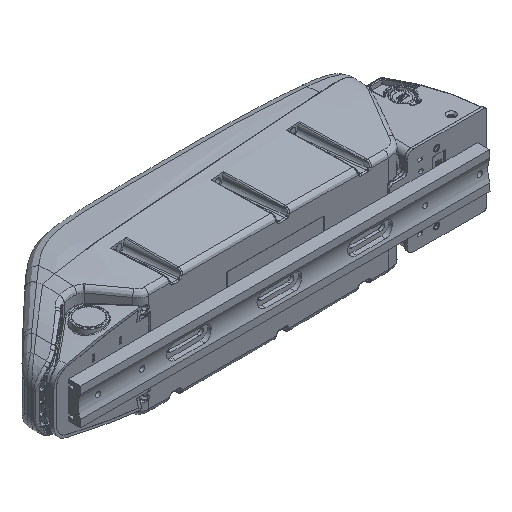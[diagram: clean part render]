
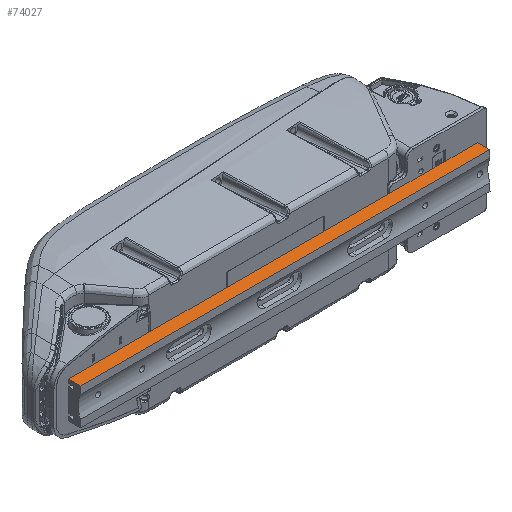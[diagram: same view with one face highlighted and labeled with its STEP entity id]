
A CAD part, isometric view. The second image highlights one B-rep face of the part: STEP entity #74027.
In plain terms, the highlighted planar face has unit normal (0, 0, 1).
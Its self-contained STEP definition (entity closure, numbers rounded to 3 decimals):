
#3856=LINE('',#101635,#8793);
#3869=LINE('',#101679,#8806);
#4284=LINE('',#107168,#9221);
#4291=LINE('',#107179,#9228);
#4363=LINE('',#107674,#9300);
#4392=LINE('',#107732,#9329);
#5172=LINE('',#112738,#10109);
#5173=LINE('',#112739,#10110);
#8793=VECTOR('',#84119,26.362);
#8806=VECTOR('',#84142,35.183);
#9221=VECTOR('',#85401,11.263);
#9228=VECTOR('',#85410,10.);
#9300=VECTOR('',#85532,10.2);
#9329=VECTOR('',#85579,10.);
#10109=VECTOR('',#87527,10.2);
#10110=VECTOR('',#87528,339.198);
#14065=PLANE('',#78957);
#15852=FACE_OUTER_BOUND('',#20349,.T.);
#20349=EDGE_LOOP('',(#53659,#53660,#53661,#53662,#53663,#53664,#53665,#53666));
#30512=VERTEX_POINT('',#101633);
#30513=VERTEX_POINT('',#101634);
#30531=VERTEX_POINT('',#101676);
#30532=VERTEX_POINT('',#101678);
#31077=VERTEX_POINT('',#107177);
#31157=VERTEX_POINT('',#107673);
#31177=VERTEX_POINT('',#107731);
#31927=VERTEX_POINT('',#112737);
#37954=EDGE_CURVE('',#30512,#30513,#3856,.T.);
#37973=EDGE_CURVE('',#30532,#30531,#3869,.T.);
#38742=EDGE_CURVE('',#30532,#30513,#4284,.T.);
#38749=EDGE_CURVE('',#31077,#30531,#4291,.T.);
#38847=EDGE_CURVE('',#30512,#31157,#4363,.T.);
#38878=EDGE_CURVE('',#31177,#31077,#4392,.T.);
#40035=EDGE_CURVE('',#31927,#31177,#5172,.T.);
#40036=EDGE_CURVE('',#31157,#31927,#5173,.T.);
#53659=ORIENTED_EDGE('',*,*,#37954,.T.);
#53660=ORIENTED_EDGE('',*,*,#38742,.F.);
#53661=ORIENTED_EDGE('',*,*,#37973,.T.);
#53662=ORIENTED_EDGE('',*,*,#38749,.F.);
#53663=ORIENTED_EDGE('',*,*,#38878,.F.);
#53664=ORIENTED_EDGE('',*,*,#40035,.F.);
#53665=ORIENTED_EDGE('',*,*,#40036,.F.);
#53666=ORIENTED_EDGE('',*,*,#38847,.F.);
#74027=ADVANCED_FACE('',(#15852),#14065,.F.);
#78957=AXIS2_PLACEMENT_3D('',#112736,#87525,#87526);
#84119=DIRECTION('',(-1.,0.,0.));
#84142=DIRECTION('',(-1.,0.,0.));
#85401=DIRECTION('',(1.,0.,0.));
#85410=DIRECTION('',(1.,0.,0.));
#85532=DIRECTION('',(0.,-1.,0.));
#85579=DIRECTION('',(1.,0.,0.));
#87525=DIRECTION('center_axis',(0.,0.,-1.));
#87526=DIRECTION('ref_axis',(-1.,0.,0.));
#87527=DIRECTION('',(0.,1.,0.));
#87528=DIRECTION('',(-1.,0.,0.));
#101633=CARTESIAN_POINT('',(29.879,-6.,15.052));
#101634=CARTESIAN_POINT('',(3.516,-6.,15.052));
#101635=CARTESIAN_POINT('',(29.879,-6.,15.052));
#101676=CARTESIAN_POINT('',(-42.931,-6.,15.052));
#101678=CARTESIAN_POINT('',(-7.747,-6.,15.052));
#101679=CARTESIAN_POINT('',(-7.747,-6.,15.052));
#107168=CARTESIAN_POINT('',(-7.747,-6.,15.052));
#107177=CARTESIAN_POINT('',(-242.437,-6.,15.052));
#107179=CARTESIAN_POINT('',(-255.356,-6.,15.052));
#107673=CARTESIAN_POINT('',(29.879,-16.2,15.052));
#107674=CARTESIAN_POINT('',(29.879,-6.,15.052));
#107731=CARTESIAN_POINT('',(-309.319,-6.,15.052));
#107732=CARTESIAN_POINT('',(-321.991,-6.,15.052));
#112736=CARTESIAN_POINT('Origin',(-360.121,-9.,15.052));
#112737=CARTESIAN_POINT('',(-309.319,-16.2,15.052));
#112738=CARTESIAN_POINT('',(-309.319,-16.2,15.052));
#112739=CARTESIAN_POINT('',(29.879,-16.2,15.052));
